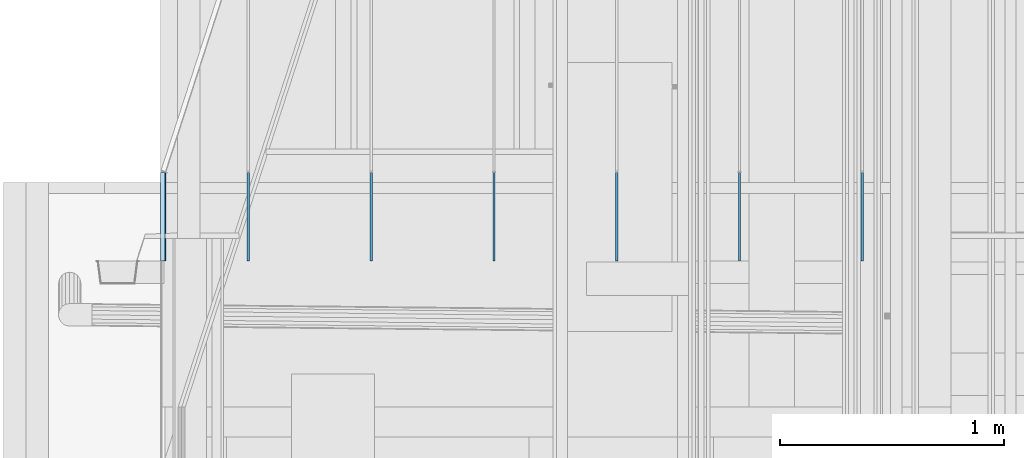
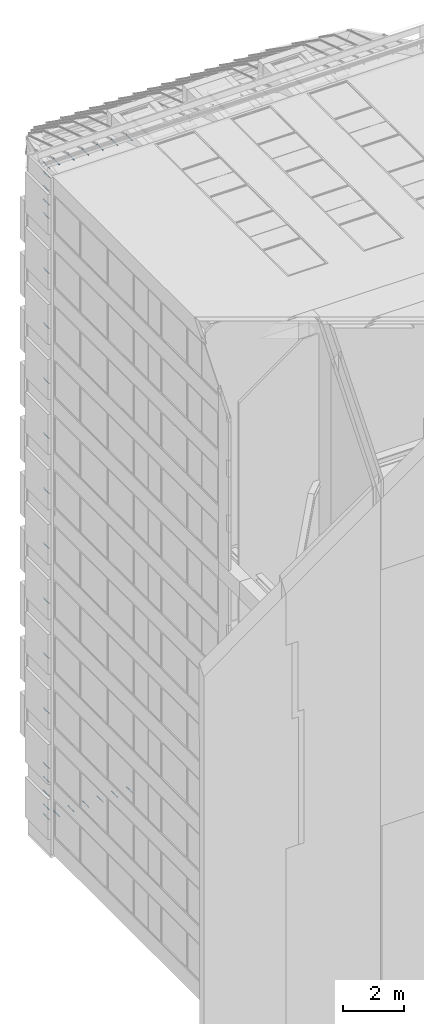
# One storey, part 302 of 583: 31 slabs.
"""IFC2X3 building model written with IfcOpenShell, lengths in metres."""

from ifc_helpers import new_model, entity, si_unit, converted_unit, derived_unit, money_unit, direction, frame, origin_with_axes, place, context, subcontext, project, spatial, faceted_brep, material, type_object, element, save


model = new_model("IFC2X3")

# Units and contexts
model_context = context("Model", 3, precision=1e-05, world=origin_with_axes(), true_north=direction((0.0, 1.0)))
body_context = subcontext(model_context, "Body", "Model", "MODEL_VIEW", scale=1.0)
ifc_project = project(units=[si_unit("LENGTHUNIT", "METRE"), si_unit("AREAUNIT", "SQUARE_METRE"), si_unit("VOLUMEUNIT", "CUBIC_METRE"), si_unit("ABSORBEDDOSEUNIT", "GRAY"), si_unit("AMOUNTOFSUBSTANCEUNIT", "MOLE"), si_unit("DOSEEQUIVALENTUNIT", "SIEVERT"), si_unit("ELECTRICCAPACITANCEUNIT", "FARAD"), si_unit("ELECTRICCHARGEUNIT", "COULOMB"), si_unit("ELECTRICCONDUCTANCEUNIT", "SIEMENS"), si_unit("ELECTRICCURRENTUNIT", "AMPERE"), si_unit("ELECTRICRESISTANCEUNIT", "OHM"), si_unit("ELECTRICVOLTAGEUNIT", "VOLT"), si_unit("ENERGYUNIT", "JOULE"), si_unit("FORCEUNIT", "NEWTON"), si_unit("FREQUENCYUNIT", "HERTZ"), si_unit("ILLUMINANCEUNIT", "LUX"), si_unit("INDUCTANCEUNIT", "HENRY"), si_unit("LUMINOUSFLUXUNIT", "LUMEN"), si_unit("LUMINOUSINTENSITYUNIT", "CANDELA"), si_unit("MAGNETICFLUXDENSITYUNIT", "TESLA"), si_unit("MAGNETICFLUXUNIT", "WEBER"), si_unit("MASSUNIT", "GRAM"), converted_unit("PLANEANGLEUNIT", "degree", entity("IfcReal", 0.0174532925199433), si_unit("PLANEANGLEUNIT", "RADIAN"), dimensions=[0, 0, 0, 0, 0, 0, 0]), si_unit("POWERUNIT", "WATT"), si_unit("PRESSUREUNIT", "PASCAL"), si_unit("RADIOACTIVITYUNIT", "BECQUEREL"), si_unit("SOLIDANGLEUNIT", "STERADIAN"), si_unit("THERMODYNAMICTEMPERATUREUNIT", "KELVIN"), si_unit("TIMEUNIT", "SECOND"), derived_unit("ACCELERATIONUNIT", [(si_unit("LENGTHUNIT", "METRE"), 1), (si_unit("TIMEUNIT", "SECOND"), -2)]), derived_unit("ANGULARVELOCITYUNIT", [(converted_unit("PLANEANGLEUNIT", "degree", entity("IfcReal", 0.0174532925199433), si_unit("PLANEANGLEUNIT", "RADIAN"), dimensions=[0, 0, 0, 0, 0, 0, 0]), 1), (si_unit("TIMEUNIT", "SECOND"), -1)]), derived_unit("CURVATUREUNIT", [(converted_unit("PLANEANGLEUNIT", "degree", entity("IfcReal", 0.0174532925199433), si_unit("PLANEANGLEUNIT", "RADIAN"), dimensions=[0, 0, 0, 0, 0, 0, 0]), 1), (si_unit("LENGTHUNIT", "METRE"), -1)]), derived_unit("DYNAMICVISCOSITYUNIT", [(si_unit("PRESSUREUNIT", "PASCAL"), 1), (si_unit("TIMEUNIT", "SECOND"), 1)]), derived_unit("HEATFLUXDENSITYUNIT", [(si_unit("POWERUNIT", "WATT"), 1), (si_unit("LENGTHUNIT", "METRE"), -2)]), derived_unit("HEATINGVALUEUNIT", [(si_unit("ENERGYUNIT", "JOULE"), 1), (si_unit("MASSUNIT", "GRAM"), -1)]), derived_unit("INTEGERCOUNTRATEUNIT", [(si_unit("TIMEUNIT", "SECOND"), -1)]), derived_unit("IONCONCENTRATIONUNIT", [(si_unit("MASSUNIT", "GRAM"), 1), (si_unit("VOLUMEUNIT", "CUBIC_METRE"), -1)]), derived_unit("ISOTHERMALMOISTURECAPACITYUNIT", [(si_unit("VOLUMEUNIT", "CUBIC_METRE"), 1), (si_unit("MASSUNIT", "GRAM"), -1)]), derived_unit("KINEMATICVISCOSITYUNIT", [(si_unit("AREAUNIT", "SQUARE_METRE"), 1), (si_unit("TIMEUNIT", "SECOND"), -1)]), derived_unit("LINEARFORCEUNIT", [(si_unit("FORCEUNIT", "NEWTON"), 1), (si_unit("LENGTHUNIT", "METRE"), -1)]), derived_unit("LINEARMOMENTUNIT", [(si_unit("FORCEUNIT", "NEWTON"), 1), (si_unit("LENGTHUNIT", "METRE"), -1)]), derived_unit("LINEARSTIFFNESSUNIT", [(si_unit("FORCEUNIT", "NEWTON"), 1), (si_unit("LENGTHUNIT", "METRE"), -1)]), derived_unit("LINEARVELOCITYUNIT", [(si_unit("LENGTHUNIT", "METRE"), 1), (si_unit("TIMEUNIT", "SECOND"), -1)]), derived_unit("LUMINOUSINTENSITYDISTRIBUTIONUNIT", [(si_unit("LUMINOUSINTENSITYUNIT", "CANDELA"), 1), (si_unit("LUMINOUSFLUXUNIT", "LUMEN"), -1)]), derived_unit("MASSDENSITYUNIT", [(si_unit("MASSUNIT", "GRAM"), 1), (si_unit("VOLUMEUNIT", "CUBIC_METRE"), -1)]), derived_unit("MASSFLOWRATEUNIT", [(si_unit("MASSUNIT", "GRAM"), 1), (si_unit("TIMEUNIT", "SECOND"), -1)]), derived_unit("MASSPERLENGTHUNIT", [(si_unit("MASSUNIT", "GRAM"), 1), (si_unit("LENGTHUNIT", "METRE"), -1)]), derived_unit("MODULUSOFELASTICITYUNIT", [(si_unit("FORCEUNIT", "NEWTON"), 1), (si_unit("AREAUNIT", "SQUARE_METRE"), -1)]), derived_unit("MODULUSOFLINEARSUBGRADEREACTIONUNIT", [(si_unit("FORCEUNIT", "NEWTON"), 1), (si_unit("LENGTHUNIT", "METRE"), -2)]), derived_unit("MODULUSOFROTATIONALSUBGRADEREACTIONUNIT", [(si_unit("FORCEUNIT", "NEWTON"), 1), (si_unit("LENGTHUNIT", "METRE"), 1)]), derived_unit("MODULUSOFSUBGRADEREACTIONUNIT", [(si_unit("FORCEUNIT", "NEWTON"), 1), (si_unit("VOLUMEUNIT", "CUBIC_METRE"), -1)]), derived_unit("MOISTUREDIFFUSIVITYUNIT", [(si_unit("VOLUMEUNIT", "CUBIC_METRE"), 1), (si_unit("TIMEUNIT", "SECOND"), -1)]), derived_unit("MOLECULARWEIGHTUNIT", [(si_unit("MASSUNIT", "GRAM"), 1), (si_unit("AMOUNTOFSUBSTANCEUNIT", "MOLE"), -1)]), derived_unit("PLANARFORCEUNIT", [(si_unit("FORCEUNIT", "NEWTON"), 1), (si_unit("LENGTHUNIT", "METRE"), -2)]), derived_unit("ROTATIONALFREQUENCYUNIT", [(si_unit("TIMEUNIT", "SECOND"), -1)]), derived_unit("ROTATIONALMASSUNIT", [(si_unit("MASSUNIT", "GRAM"), 1), (si_unit("LENGTHUNIT", "METRE"), 2)]), derived_unit("ROTATIONALSTIFFNESSUNIT", [(si_unit("FORCEUNIT", "NEWTON"), 1), (si_unit("LENGTHUNIT", "METRE"), 1), (converted_unit("PLANEANGLEUNIT", "degree", entity("IfcReal", 0.0174532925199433), si_unit("PLANEANGLEUNIT", "RADIAN"), dimensions=[0, 0, 0, 0, 0, 0, 0]), -1)]), derived_unit("SECTIONAREAINTEGRALUNIT", [(si_unit("LENGTHUNIT", "METRE"), 5)]), derived_unit("SECTIONMODULUSUNIT", [(si_unit("LENGTHUNIT", "METRE"), 3)]), derived_unit("SHEARMODULUSUNIT", [(si_unit("FORCEUNIT", "NEWTON"), 1), (si_unit("AREAUNIT", "SQUARE_METRE"), -1)]), derived_unit("SOUNDPOWERUNIT", [(si_unit("ENERGYUNIT", "JOULE"), 1), (si_unit("TIMEUNIT", "SECOND"), -1)]), derived_unit("SPECIFICHEATCAPACITYUNIT", [(si_unit("FORCEUNIT", "NEWTON"), 1), (si_unit("MASSUNIT", "GRAM"), -1), (si_unit("THERMODYNAMICTEMPERATUREUNIT", "KELVIN"), -1)]), derived_unit("TEMPERATUREGRADIENTUNIT", [(si_unit("THERMODYNAMICTEMPERATUREUNIT", "KELVIN"), 1), (si_unit("LENGTHUNIT", "METRE"), -1)]), derived_unit("THERMALADMITTANCEUNIT", [(si_unit("POWERUNIT", "WATT"), 1), (si_unit("AREAUNIT", "SQUARE_METRE"), -1), (si_unit("THERMODYNAMICTEMPERATUREUNIT", "KELVIN"), -1)]), derived_unit("THERMALCONDUCTANCEUNIT", [(si_unit("POWERUNIT", "WATT"), 1), (si_unit("LENGTHUNIT", "METRE"), -1), (si_unit("THERMODYNAMICTEMPERATUREUNIT", "KELVIN"), -1)]), derived_unit("THERMALEXPANSIONCOEFFICIENTUNIT", [(si_unit("THERMODYNAMICTEMPERATUREUNIT", "KELVIN"), -1)]), derived_unit("THERMALRESISTANCEUNIT", [(si_unit("AREAUNIT", "SQUARE_METRE"), 1), (si_unit("POWERUNIT", "WATT"), -1)]), derived_unit("THERMALTRANSMITTANCEUNIT", [(si_unit("POWERUNIT", "WATT"), 1), (si_unit("AREAUNIT", "SQUARE_METRE"), -1), (si_unit("THERMODYNAMICTEMPERATUREUNIT", "KELVIN"), -1)]), derived_unit("TORQUEUNIT", [(si_unit("FORCEUNIT", "NEWTON"), 1), (si_unit("LENGTHUNIT", "METRE"), 1)]), derived_unit("VAPORPERMEABILITYUNIT", [(si_unit("MASSUNIT", "GRAM"), 1), (si_unit("TIMEUNIT", "SECOND"), -1)]), derived_unit("VOLUMETRICFLOWRATEUNIT", [(si_unit("VOLUMEUNIT", "CUBIC_METRE"), 1), (si_unit("TIMEUNIT", "SECOND"), -1)]), derived_unit("WARPINGCONSTANTUNIT", [(si_unit("LENGTHUNIT", "METRE"), 6)]), derived_unit("WARPINGMOMENTUNIT", [(si_unit("FORCEUNIT", "NEWTON"), 1), (si_unit("LENGTHUNIT", "METRE"), 2)]), money_unit("GBP")], contexts=[model_context])

# Site, building, storey
site_placement = place(None, origin_with_axes())
site = spatial("IfcSite", under=ifc_project, at=site_placement, Name="Site", CompositionType="ELEMENT")
building_placement = place(site_placement, origin_with_axes())
building = spatial("IfcBuilding", under=site, at=building_placement, Name="Building01", CompositionType="ELEMENT")
storey_placement = place(building_placement, frame((0.0, 0.0, 20.78), z_axis=(0.0, 0.0, 1.0), x_axis=(1.0, 0.0, 0.0)))
storey = spatial("IfcBuildingStorey", under=building, at=storey_placement, Name="RL", CompositionType="ELEMENT", Elevation=20.78)

# Slabs
ifc_material = material(Name="A_BSUK_Roofs")
slab_type = type_object("IfcSlabType", Name="A-FloorsSlabs A_BSUK_Slabs", PredefinedType="FLOOR")
for number, where, z_axis, x_axis, name in (
    (1, (0.52, 15.034499, -7.284976), (0.0, 1.0, 0.0), (0.0, 0.0, 1.0), "A-FloorsSlabs A_BSUK_Slabs"),
    (2, (0.52, 15.034499, -5.094976), (0.0, 1.0, 0.0), (0.0, 0.0, 1.0), "A-FloorsSlabs A_BSUK_Slabs"),
    (3, (0.52, 15.034499, -2.904976), (0.0, 1.0, 0.0), (0.0, 0.0, 1.0), "A-FloorsSlabs A_BSUK_Slabs"),
    (4, (0.52, 15.034499, -0.714976), (0.0, 1.0, 0.0), (0.0, 0.0, 1.0), "A-FloorsSlabs A_BSUK_Slabs"),
    (5, (0.52, 15.034499, 1.475024), (0.0, 1.0, 0.0), (0.0, 0.0, 1.0), "A-FloorsSlabs A_BSUK_Slabs"),
    (6, (0.52, 15.034499, 3.665024), (0.0, 1.0, 0.0), (0.0, 0.0, 1.0), "A-FloorsSlabs A_BSUK_Slabs"),
    (7, (0.52, 15.034499, 4.212524), (0.0, 1.0, 0.0), (0.0, 0.0, 1.0), "A-FloorsSlabs A_BSUK_Slabs"),
    (8, (0.52, 15.034499, 4.760024), (0.0, 1.0, 0.0), (0.0, 0.0, 1.0), "A-FloorsSlabs A_BSUK_Slabs"),
    (9, (0.52, 15.034499, 5.307524), (0.0, 1.0, 0.0), (0.0, 0.0, 1.0), "A-FloorsSlabs A_BSUK_Slabs"),
):
    element("IfcSlab", number, at=place(storey_placement, frame(where, z_axis=z_axis, x_axis=x_axis)), inside=storey, type_object=slab_type, material=ifc_material, Name=name, ObjectType="A-FloorsSlabs A_BSUK_Slabs", context=body_context, shape_type="Brep", body=[
        faceted_brep([(0.0, 0.0, 0.845501), (0.0, -0.02, 0.845501), (0.0, -0.02, 1.239928), (0.0, 0.0, 1.239928), (0.01, 0.0, 0.845501), (0.01, -0.02, 0.845501), (0.01, 0.0, 1.239928), (0.01, -0.02, 1.239928)], [[[0, 1, 2, 3]], [[4, 5, 1, 0]], [[6, 7, 5, 4]], [[3, 2, 7, 6]], [[1, 5, 7, 2]], [[3, 6, 4, 0]]]),
    ])
for number, where, z_axis, x_axis, name in (
    (10, (0.52, 15.034499, -9.464976), (0.0, 1.0, 0.0), (0.0, 0.0, 1.0), "A-FloorsSlabs A_BSUK_Slabs"),
    (11, (0.52, 15.034499, -11.654976), (0.0, 1.0, 0.0), (0.0, 0.0, 1.0), "A-FloorsSlabs A_BSUK_Slabs"),
    (12, (0.52, 15.034499, -13.844976), (0.0, 1.0, 0.0), (0.0, 0.0, 1.0), "A-FloorsSlabs A_BSUK_Slabs"),
    (13, (0.52, 15.034499, -18.224976), (0.0, 1.0, 0.0), (0.0, 0.0, 1.0), "A-FloorsSlabs A_BSUK_Slabs"),
    (14, (0.52, 15.034499, -18.772476), (0.0, 1.0, 0.0), (0.0, 0.0, 1.0), "A-FloorsSlabs A_BSUK_Slabs"),
    (15, (0.52, 15.034499, -19.319976), (0.0, 1.0, 0.0), (0.0, 0.0, 1.0), "A-FloorsSlabs A_BSUK_Slabs"),
    (16, (0.52, 15.034499, -19.867476), (0.0, 1.0, 0.0), (0.0, 0.0, 1.0), "A-FloorsSlabs A_BSUK_Slabs"),
):
    element("IfcSlab", number, at=place(storey_placement, frame(where, z_axis=z_axis, x_axis=x_axis)), inside=storey, type_object=slab_type, material=ifc_material, Name=name, ObjectType="A-FloorsSlabs A_BSUK_Slabs", context=body_context, shape_type="Brep", body=[
        faceted_brep([(0.0, 0.0, 1.239928), (0.0, -0.02, 1.239928), (0.0, -0.02, 0.845501), (0.0, 0.0, 0.845501), (-0.01, -0.02, 0.845501), (-0.01, 0.0, 0.845501), (-0.01, -0.02, 1.239928), (-0.01, 0.0, 1.239928)], [[[0, 1, 2, 3]], [[3, 2, 4, 5]], [[5, 4, 6, 7]], [[7, 6, 1, 0]], [[1, 6, 4, 2]], [[3, 5, 7, 0]]]),
    ])
slab_1_placement = place(storey_placement, frame((0.52, 15.034499, -16.044976), z_axis=(0.0, 1.0, 0.0), x_axis=(0.0, 0.0, 1.0)))
element("IfcSlab", 17, at=slab_1_placement, inside=storey, type_object=slab_type, material=ifc_material, Name="A-FloorsSlabs A_BSUK_Slabs", ObjectType="A-FloorsSlabs A_BSUK_Slabs", context=body_context, shape_type="Brep", body=[
    faceted_brep([(0.0, 0.0, 0.845501), (0.0, -0.02, 0.845501), (0.0, -0.02, 1.239928), (0.0, 0.0, 1.239928), (0.01, 0.0, 0.845501), (0.01, -0.02, 0.845501), (0.01, 0.0, 1.239928), (0.01, -0.02, 1.239928)], [[[0, 1, 2, 3]], [[4, 5, 1, 0]], [[6, 7, 5, 4]], [[3, 2, 7, 6]], [[1, 5, 7, 2]], [[3, 6, 4, 0]]]),
])
for number, where, z_axis, x_axis, name in (
    (18, (2.538975, 15.034499, 5.68), (0.0, 1.0, 0.0), (1.0, 0.0, 0.0), "A-FloorsSlabs A_BSUK_Slabs"),
    (19, (1.991475, 15.034499, 5.68), (0.0, 1.0, 0.0), (1.0, 0.0, 0.0), "A-FloorsSlabs A_BSUK_Slabs"),
    (20, (1.443975, 15.034499, 5.68), (0.0, 1.0, 0.0), (1.0, 0.0, 0.0), "A-FloorsSlabs A_BSUK_Slabs"),
    (21, (0.896475, 15.034499, 5.68), (0.0, 1.0, 0.0), (1.0, 0.0, 0.0), "A-FloorsSlabs A_BSUK_Slabs"),
):
    element("IfcSlab", number, at=place(storey_placement, frame(where, z_axis=z_axis, x_axis=x_axis)), inside=storey, type_object=slab_type, material=ifc_material, Name=name, ObjectType="A-FloorsSlabs A_BSUK_Slabs", context=body_context, shape_type="Brep", body=[
        faceted_brep([(0.0, 0.0, 1.239928), (0.0, -0.02, 1.239928), (0.0, -0.02, 0.845501), (0.0, 0.0, 0.845501), (-0.01, -0.02, 0.845501), (-0.01, 0.0, 0.845501), (-0.01, -0.02, 1.239928), (-0.01, 0.0, 1.239928)], [[[0, 1, 2, 3]], [[3, 2, 4, 5]], [[5, 4, 6, 7]], [[7, 6, 1, 0]], [[1, 6, 4, 2]], [[3, 5, 7, 0]]]),
    ])
for number, where, z_axis, x_axis, name in (
    (22, (3.623975, 15.034499, 5.68), (0.0, 1.0, 0.0), (1.0, 0.0, 0.0), "A-FloorsSlabs A_BSUK_Slabs"),
    (23, (3.076475, 15.034499, 5.68), (0.0, 1.0, 0.0), (1.0, 0.0, 0.0), "A-FloorsSlabs A_BSUK_Slabs"),
):
    element("IfcSlab", number, at=place(storey_placement, frame(where, z_axis=z_axis, x_axis=x_axis)), inside=storey, type_object=slab_type, material=ifc_material, Name=name, ObjectType="A-FloorsSlabs A_BSUK_Slabs", context=body_context, shape_type="Brep", body=[
        faceted_brep([(0.0, 0.0, 0.845501), (0.0, -0.02, 0.845501), (0.0, -0.02, 1.239928), (0.0, 0.0, 1.239928), (0.01, 0.0, 0.845501), (0.01, -0.02, 0.845501), (0.01, 0.0, 1.239928), (0.01, -0.02, 1.239928)], [[[0, 1, 2, 3]], [[4, 5, 1, 0]], [[6, 7, 5, 4]], [[3, 2, 7, 6]], [[1, 5, 7, 2]], [[3, 6, 4, 0]]]),
    ])
slab_2_placement = place(storey_placement, frame((3.076475, 15.034499, -20.26), z_axis=(0.0, 1.0, 0.0), x_axis=(-1.0, 0.0, 0.0)))
element("IfcSlab", 24, at=slab_2_placement, inside=storey, type_object=slab_type, material=ifc_material, Name="A-FloorsSlabs A_BSUK_Slabs", ObjectType="A-FloorsSlabs A_BSUK_Slabs", context=body_context, shape_type="Brep", body=[
    faceted_brep([(0.0, 0.0, 1.239928), (0.0, -0.02, 1.239928), (0.0, -0.02, 0.845501), (0.0, 0.0, 0.845501), (-0.01, -0.02, 0.845501), (-0.01, 0.0, 0.845501), (-0.01, -0.02, 1.239928), (-0.01, 0.0, 1.239928)], [[[0, 1, 2, 3]], [[3, 2, 4, 5]], [[5, 4, 6, 7]], [[7, 6, 1, 0]], [[1, 6, 4, 2]], [[3, 5, 7, 0]]]),
])
for number, where, z_axis, x_axis, name in (
    (25, (2.538975, 15.034499, -20.26), (0.0, 1.0, 0.0), (-1.0, 0.0, 0.0), "A-FloorsSlabs A_BSUK_Slabs"),
    (26, (1.991475, 15.034499, -20.26), (0.0, 1.0, 0.0), (-1.0, 0.0, 0.0), "A-FloorsSlabs A_BSUK_Slabs"),
    (27, (1.443975, 15.034499, -20.26), (0.0, 1.0, 0.0), (-1.0, 0.0, 0.0), "A-FloorsSlabs A_BSUK_Slabs"),
    (28, (0.896475, 15.034499, -20.26), (0.0, 1.0, 0.0), (-1.0, 0.0, 0.0), "A-FloorsSlabs A_BSUK_Slabs"),
):
    element("IfcSlab", number, at=place(storey_placement, frame(where, z_axis=z_axis, x_axis=x_axis)), inside=storey, type_object=slab_type, material=ifc_material, Name=name, ObjectType="A-FloorsSlabs A_BSUK_Slabs", context=body_context, shape_type="Brep", body=[
        faceted_brep([(0.0, 0.0, 0.845501), (0.0, -0.02, 0.845501), (0.0, -0.02, 1.239928), (0.0, 0.0, 1.239928), (0.01, 0.0, 0.845501), (0.01, -0.02, 0.845501), (0.01, 0.0, 1.239928), (0.01, -0.02, 1.239928)], [[[0, 1, 2, 3]], [[4, 5, 1, 0]], [[6, 7, 5, 4]], [[3, 2, 7, 6]], [[1, 5, 7, 2]], [[3, 6, 4, 0]]]),
    ])
for number, where, z_axis, x_axis, name in (
    (29, (3.623975, 15.034499, -20.26), (0.0, 1.0, 0.0), (-1.0, 0.0, 0.0), "A-FloorsSlabs A_BSUK_Slabs"),
    (30, (0.516952, 15.034499, -20.256051), (0.0, 1.0, 0.0), (-0.61416219, 0.0, 0.78917983), "A-FloorsSlabs A_BSUK_Slabs"),
):
    element("IfcSlab", number, at=place(storey_placement, frame(where, z_axis=z_axis, x_axis=x_axis)), inside=storey, type_object=slab_type, material=ifc_material, Name=name, ObjectType="A-FloorsSlabs A_BSUK_Slabs", context=body_context, shape_type="Brep", body=[
        faceted_brep([(0.0, 0.0, 1.239928), (0.0, -0.02, 1.239928), (0.0, -0.02, 0.845501), (0.0, 0.0, 0.845501), (-0.01, -0.02, 0.845501), (-0.01, 0.0, 0.845501), (-0.01, -0.02, 1.239928), (-0.01, 0.0, 1.239928)], [[[0, 1, 2, 3]], [[3, 2, 4, 5]], [[5, 4, 6, 7]], [[7, 6, 1, 0]], [[1, 6, 4, 2]], [[3, 5, 7, 0]]]),
    ])
slab_3_placement = place(storey_placement, frame((0.516952, 15.034499, 5.677105), z_axis=(0.0, 1.0, 0.0), x_axis=(0.61416219, 0.0, 0.78917983)))
element("IfcSlab", 31, at=slab_3_placement, inside=storey, type_object=slab_type, material=ifc_material, Name="A-FloorsSlabs A_BSUK_Slabs", ObjectType="A-FloorsSlabs A_BSUK_Slabs", context=body_context, shape_type="Brep", body=[
    faceted_brep([(0.0, 0.0, 0.845501), (0.0, -0.02, 0.845501), (0.0, -0.02, 1.239928), (0.0, 0.0, 1.239928), (0.01, 0.0, 0.845501), (0.01, -0.02, 0.845501), (0.01, 0.0, 1.239928), (0.01, -0.02, 1.239928)], [[[0, 1, 2, 3]], [[4, 5, 1, 0]], [[6, 7, 5, 4]], [[3, 2, 7, 6]], [[1, 5, 7, 2]], [[3, 6, 4, 0]]]),
])

save(model, "model.ifc")
